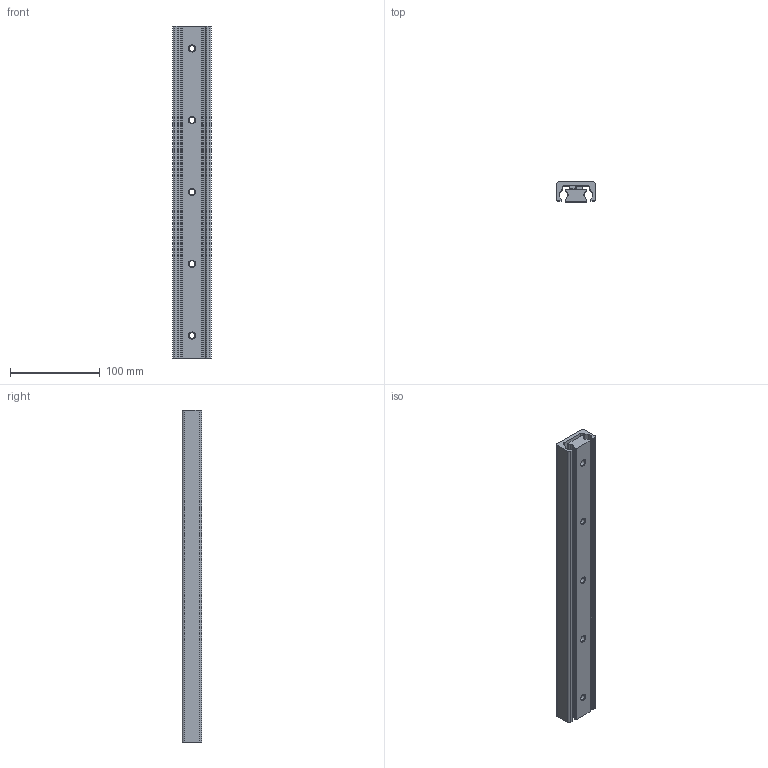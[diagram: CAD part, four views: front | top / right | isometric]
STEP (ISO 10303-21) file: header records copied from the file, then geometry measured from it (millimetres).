
FILE_DESCRIPTION(('STEP AP214'),'1');
FILE_NAME('rail_asn43-370_00.stp','2017-06-06T10:18:16',('TraceParts'),('TraceParts S.A.'),'Spatial InterOp 3D',' ',' ');
FILE_SCHEMA(('automotive_design'));
Length unit declared in the file: millimetre
Products named in the file (2): rail_asn43-370_00_1; rail_asn43-370_00_2
Bounding box: 43 x 22.01 x 370 mm (x, y, z)
Volume: 225328.2 mm3; surface area: 88338.5 mm2
Topology: 2 solids, 2 shells, 127 faces, 324 edges, 206 vertices
Faces by surface type: cylinder 51, plane 46, cone 30
Entity records: 3920 total; most frequent: DIRECTION 714, CARTESIAN_POINT 659, ORIENTED_EDGE 648, EDGE_CURVE 324, AXIS2_PLACEMENT_3D 261, VERTEX_POINT 206, LINE 192, VECTOR 192
